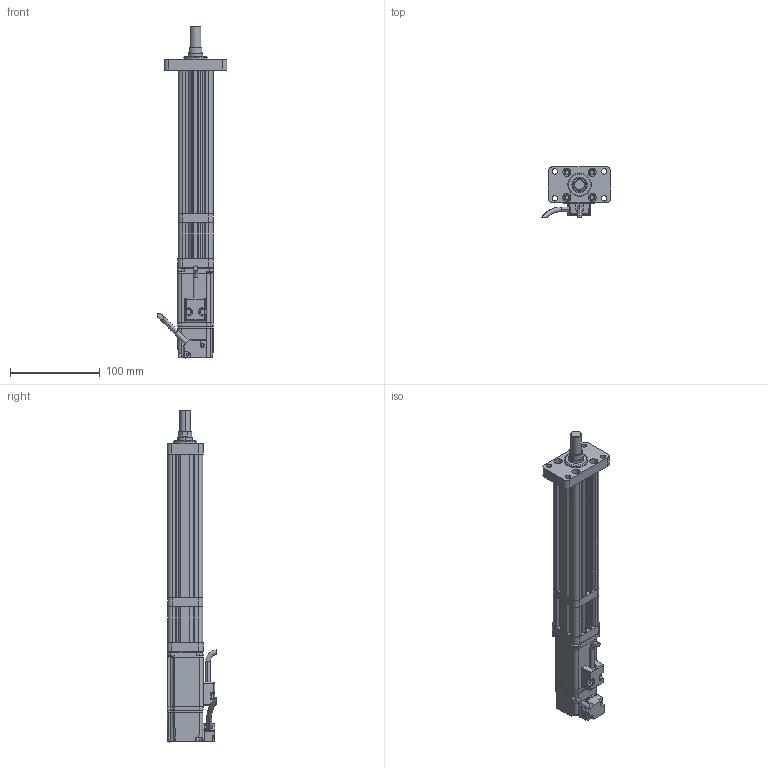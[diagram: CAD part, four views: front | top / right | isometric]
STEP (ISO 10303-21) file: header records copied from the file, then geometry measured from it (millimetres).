
FILE_DESCRIPTION (( 'STEP AP214' ), '1' );
FILE_NAME ('039-S100-D02-A-M3-C1-2.STEP', '2021-03-02T05:25:00', ( '' ), ( '' ), 'SwSTEP 2.0', 'SolidWorks 2018', '' );
FILE_SCHEMA (( 'AUTOMOTIVE_DESIGN' ));
Length unit declared in the file: millimetre
Products named in the file (8): CMC039-FL1; CMC039-DT; CMC039-AZB; ECMA-CX0401ES-40框號系列機種-100W低慣量系列; CMC039-DJZ; CMC039-ZLLJB; CMC039-GT; 039-S100-D02-A-M3-C1-2
Assembly tree (7 placements, depth 2):
  039-S100-D02-A-M3-C1-2
    CMC039-GT
    CMC039-DT
    CMC039-ZLLJB
    CMC039-DJZ
    ECMA-CX0401ES-40框號系列機種-100W低慣量系列
    CMC039-AZB
    CMC039-FL1
Bounding box: 77.84 x 55.39 x 369.6 mm (x, y, z)
Volume: 403041.5 mm3; surface area: 119629 mm2
Topology: 7 solids, 15 shells, 716 faces, 1884 edges, 1183 vertices
Faces by surface type: cylinder 298, plane 293, bspline 84, cone 41
Entity records: 28264 total; most frequent: CARTESIAN_POINT 11275, ORIENTED_EDGE 3702, DIRECTION 3045, EDGE_CURVE 1851, VERTEX_POINT 1183, AXIS2_PLACEMENT_3D 1040, LINE 965, VECTOR 965
